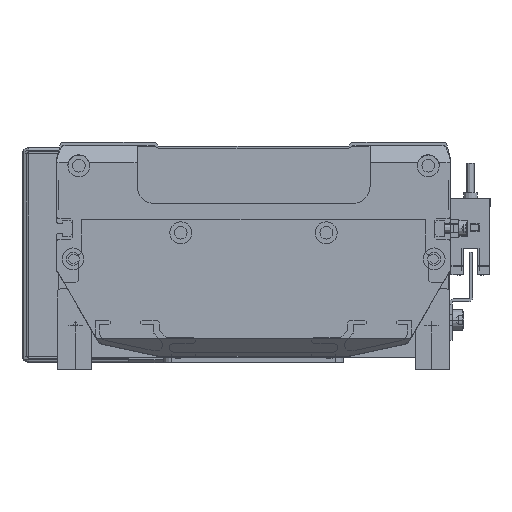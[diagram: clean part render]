
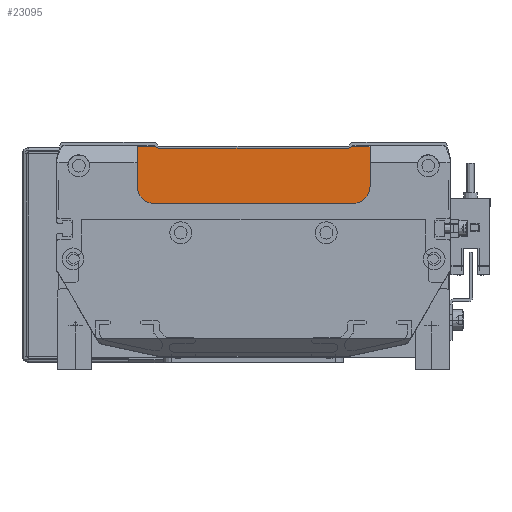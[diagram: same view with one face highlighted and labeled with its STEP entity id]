
A CAD part, front view. The second image highlights one B-rep face of the part: STEP entity #23095.
In plain terms, the highlighted planar face has unit normal (0, -1, 0) as drawn and (0, 0, -1) by its records, which use the part's own axes.
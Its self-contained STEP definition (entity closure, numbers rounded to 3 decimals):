
#128 = DIRECTION ( 'NONE',  ( -1., 0., 0. ) ) ;
#1156 = CARTESIAN_POINT ( 'NONE',  ( 3.604, 1.5, -364. ) ) ;
#1580 = DIRECTION ( 'NONE',  ( -1., 0., 0. ) ) ;
#1586 = DIRECTION ( 'NONE',  ( 0., 0., -1. ) ) ;
#1657 = VECTOR ( 'NONE', #1580, 1000. ) ;
#2255 = ORIENTED_EDGE ( 'NONE', *, *, #36506, .T. ) ;
#2302 = CARTESIAN_POINT ( 'NONE',  ( 43.604, 25., -364. ) ) ;
#2597 = DIRECTION ( 'NONE',  ( 0., -1., 0. ) ) ;
#3112 = CARTESIAN_POINT ( 'NONE',  ( 3.604, 21., -364. ) ) ;
#3347 = EDGE_CURVE ( 'NONE', #41130, #23630, #44921, .T. ) ;
#3621 = DIRECTION ( 'NONE',  ( 1., 0., 0. ) ) ;
#4976 = CARTESIAN_POINT ( 'NONE',  ( -30.396, 15., -364. ) ) ;
#5269 = VERTEX_POINT ( 'NONE', #43837 ) ;
#5308 = VERTEX_POINT ( 'NONE', #41174 ) ;
#5343 = EDGE_CURVE ( 'NONE', #16187, #39601, #23182, .T. ) ;
#5406 = CARTESIAN_POINT ( 'NONE',  ( -36.396, 25., -364. ) ) ;
#6137 = ORIENTED_EDGE ( 'NONE', *, *, #12918, .T. ) ;
#6785 = CARTESIAN_POINT ( 'NONE',  ( -28.893, 2., -364. ) ) ;
#6977 = EDGE_CURVE ( 'NONE', #39601, #40869, #32473, .T. ) ;
#6989 = LINE ( 'NONE', #1156, #33968 ) ;
#7719 = CARTESIAN_POINT ( 'NONE',  ( 3.604, 25., -364. ) ) ;
#7790 = CARTESIAN_POINT ( 'NONE',  ( -28.893, 2., -364. ) ) ;
#9369 = ORIENTED_EDGE ( 'NONE', *, *, #9760, .T. ) ;
#9755 = DIRECTION ( 'NONE',  ( 0.894, -0.447, 0. ) ) ;
#9760 = EDGE_CURVE ( 'NONE', #5308, #25963, #28444, .T. ) ;
#10529 = EDGE_CURVE ( 'NONE', #23630, #16187, #28487, .T. ) ;
#10717 = EDGE_CURVE ( 'NONE', #5269, #5308, #6989, .T. ) ;
#10761 = CARTESIAN_POINT ( 'NONE',  ( 37.604, 15., -364. ) ) ;
#10788 = AXIS2_PLACEMENT_3D ( 'NONE', #7719, #42867, #24963 ) ;
#12237 = AXIS2_PLACEMENT_3D ( 'NONE', #10761, #14143, #3621 ) ;
#12918 = EDGE_CURVE ( 'NONE', #25963, #41130, #27779, .T. ) ;
#13418 = VERTEX_POINT ( 'NONE', #45814 ) ;
#14143 = DIRECTION ( 'NONE',  ( 0., 0., -1. ) ) ;
#15252 = EDGE_CURVE ( 'NONE', #13418, #38894, #15992, .T. ) ;
#15781 = CARTESIAN_POINT ( 'NONE',  ( 3.604, 2., -364. ) ) ;
#15992 = LINE ( 'NONE', #15781, #1657 ) ;
#16187 = VERTEX_POINT ( 'NONE', #45754 ) ;
#18342 = ORIENTED_EDGE ( 'NONE', *, *, #6977, .T. ) ;
#19862 = CARTESIAN_POINT ( 'NONE',  ( 37.604, 21., -364. ) ) ;
#20930 = EDGE_LOOP ( 'NONE', ( #2255, #33722, #9369, #6137, #37919, #39865, #38197, #18342, #38831, #30699 ) ) ;
#23095 = ADVANCED_FACE ( 'NONE', ( #30841 ), #28643, .T. ) ;
#23182 = LINE ( 'NONE', #2302, #40820 ) ;
#23630 = VERTEX_POINT ( 'NONE', #19862 ) ;
#24963 = DIRECTION ( 'NONE',  ( -1., 0., 0. ) ) ;
#25963 = VERTEX_POINT ( 'NONE', #27170 ) ;
#26004 = VECTOR ( 'NONE', #38489, 1000. ) ;
#26137 = VECTOR ( 'NONE', #35346, 1000. ) ;
#27170 = CARTESIAN_POINT ( 'NONE',  ( -36.396, 15., -364. ) ) ;
#27578 = EDGE_CURVE ( 'NONE', #13418, #40869, #36928, .T. ) ;
#27779 = CIRCLE ( 'NONE', #28812, 6. ) ;
#27943 = CARTESIAN_POINT ( 'NONE',  ( 37.1, 1.5, -364. ) ) ;
#28444 = LINE ( 'NONE', #5406, #30624 ) ;
#28487 = CIRCLE ( 'NONE', #12237, 6. ) ;
#28643 = PLANE ( 'NONE',  #10788 ) ;
#28812 = AXIS2_PLACEMENT_3D ( 'NONE', #4976, #1586, #36416 ) ;
#30077 = DIRECTION ( 'NONE',  ( 0., 1., 0. ) ) ;
#30624 = VECTOR ( 'NONE', #30077, 1000. ) ;
#30699 = ORIENTED_EDGE ( 'NONE', *, *, #15252, .T. ) ;
#30840 = CARTESIAN_POINT ( 'NONE',  ( 0.903, 19.599, -364. ) ) ;
#30841 = FACE_OUTER_BOUND ( 'NONE', #20930, .T. ) ;
#32473 = LINE ( 'NONE', #34368, #38529 ) ;
#33361 = DIRECTION ( 'NONE',  ( -1., 0., 0. ) ) ;
#33722 = ORIENTED_EDGE ( 'NONE', *, *, #10717, .T. ) ;
#33968 = VECTOR ( 'NONE', #33361, 1000. ) ;
#34170 = VECTOR ( 'NONE', #9755, 1000. ) ;
#34245 = CARTESIAN_POINT ( 'NONE',  ( -30.396, 21., -364. ) ) ;
#34368 = CARTESIAN_POINT ( 'NONE',  ( 3.604, 1.5, -364. ) ) ;
#35346 = DIRECTION ( 'NONE',  ( 1., 0., 0. ) ) ;
#36416 = DIRECTION ( 'NONE',  ( 1., 0., 0. ) ) ;
#36506 = EDGE_CURVE ( 'NONE', #38894, #5269, #44783, .T. ) ;
#36928 = LINE ( 'NONE', #30840, #34170 ) ;
#37919 = ORIENTED_EDGE ( 'NONE', *, *, #3347, .T. ) ;
#38197 = ORIENTED_EDGE ( 'NONE', *, *, #5343, .T. ) ;
#38489 = DIRECTION ( 'NONE',  ( -0.894, -0.447, 0. ) ) ;
#38529 = VECTOR ( 'NONE', #128, 1000. ) ;
#38831 = ORIENTED_EDGE ( 'NONE', *, *, #27578, .F. ) ;
#38894 = VERTEX_POINT ( 'NONE', #7790 ) ;
#39601 = VERTEX_POINT ( 'NONE', #43808 ) ;
#39865 = ORIENTED_EDGE ( 'NONE', *, *, #10529, .T. ) ;
#40820 = VECTOR ( 'NONE', #2597, 1000. ) ;
#40869 = VERTEX_POINT ( 'NONE', #27943 ) ;
#41130 = VERTEX_POINT ( 'NONE', #34245 ) ;
#41174 = CARTESIAN_POINT ( 'NONE',  ( -36.396, 1.5, -364. ) ) ;
#42867 = DIRECTION ( 'NONE',  ( 0., 0., -1. ) ) ;
#43808 = CARTESIAN_POINT ( 'NONE',  ( 43.604, 1.5, -364. ) ) ;
#43837 = CARTESIAN_POINT ( 'NONE',  ( -29.893, 1.5, -364. ) ) ;
#44783 = LINE ( 'NONE', #6785, #26004 ) ;
#44921 = LINE ( 'NONE', #3112, #26137 ) ;
#45754 = CARTESIAN_POINT ( 'NONE',  ( 43.604, 15., -364. ) ) ;
#45814 = CARTESIAN_POINT ( 'NONE',  ( 36.1, 2., -364. ) ) ;
